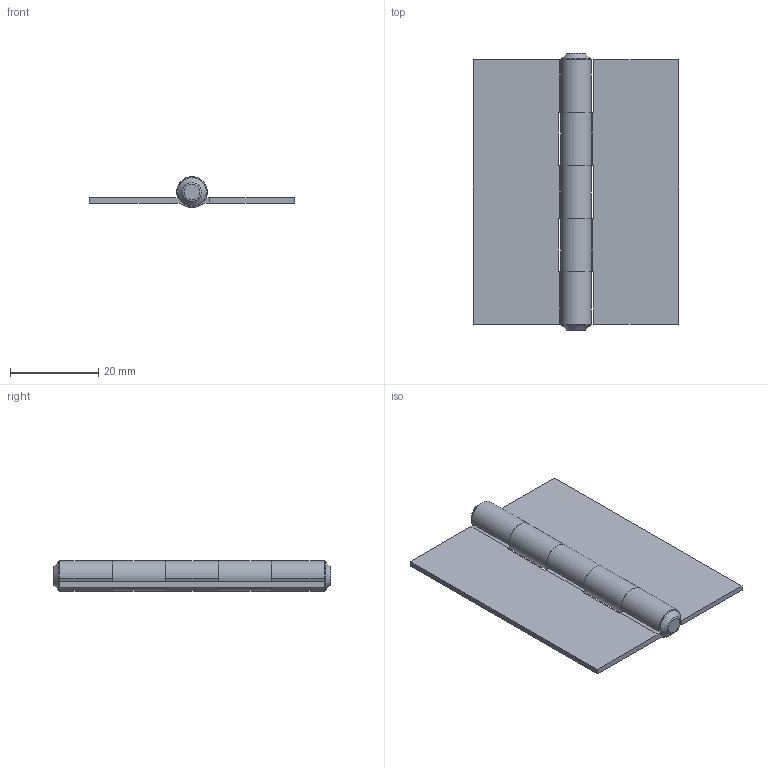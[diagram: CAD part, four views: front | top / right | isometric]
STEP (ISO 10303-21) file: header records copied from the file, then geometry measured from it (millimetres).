
FILE_DESCRIPTION(/* description */ (''),/* implementation_level */ '2;1');
FILE_NAME(/* name */ '\\NAS\db20\HHN6046-12\DR_HHN6046-12.stp',/* time_stamp */ '2018-08-11T16:03:48+09:00',/* author */ ('user'),/* organization */ (''),/* preprocessor_version */ 'ST-DEVELOPER v15.6',/* originating_system */ 'Autodesk Inventor 2015',/* authorisation */ '');
FILE_SCHEMA (('AUTOMOTIVE_DESIGN { 1 0 10303 214 3 1 1 }'));
Length unit declared in the file: millimetre
Products named in the file (3): DR_HHN6046-12-P1; DR_HHN6046-12-P2; DR_HHN6046-12
Bounding box: 46.5 x 63 x 7 mm (x, y, z)
Volume: 5164.4 mm3; surface area: 8414.8 mm2
Topology: 3 solids, 3 shells, 59 faces, 141 edges, 90 vertices
Faces by surface type: plane 32, cylinder 23, torus 2, cone 2
Full cylindrical faces by diameter (mm): 4.6 x1, 6.5 x2
Entity records: 1752 total; most frequent: DIRECTION 312, CARTESIAN_POINT 288, ORIENTED_EDGE 268, EDGE_CURVE 134, AXIS2_PLACEMENT_3D 114, VERTEX_POINT 90, LINE 84, VECTOR 84
